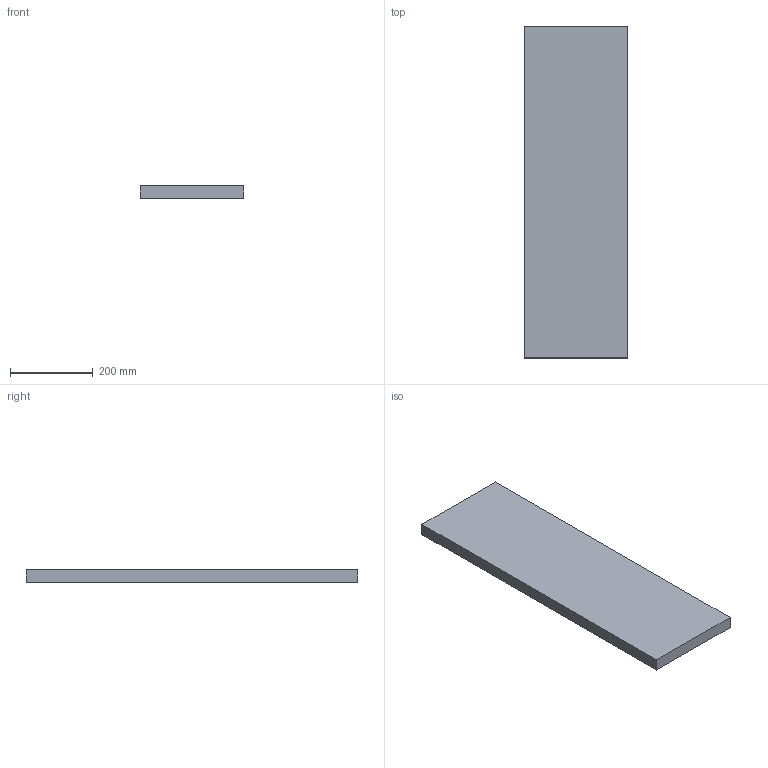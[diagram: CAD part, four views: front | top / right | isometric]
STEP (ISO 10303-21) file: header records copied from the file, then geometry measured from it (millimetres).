
FILE_DESCRIPTION(('Open CASCADE Model'),'2;1');
FILE_NAME('Open CASCADE Shape Model','2026-10-15T15:10:05',('Author'),( 'Open CASCADE'),'Open CASCADE STEP processor 8.0','Open CASCADE 8.0' ,'Unknown');
FILE_SCHEMA(('AUTOMOTIVE_DESIGN { 1 0 10303 214 1 1 1 1 }'));
Length unit declared in the file: millimetre
Products named in the file (1): PELDANO_REJILLA_COMERCIAL_REF 123
Bounding box: 250 x 800 x 30 mm (x, y, z)
Volume: 6000000 mm3; surface area: 463000 mm2
Topology: 1 solids, 1 shells, 6 faces, 12 edges, 8 vertices
Faces by surface type: plane 6
Entity records: 322 total; most frequent: CARTESIAN_POINT 51, DIRECTION 50, LINE 36, VECTOR 36, ORIENTED_EDGE 24, PCURVE 24, DEFINITIONAL_REPRESENTATION 24, EDGE_CURVE 12
